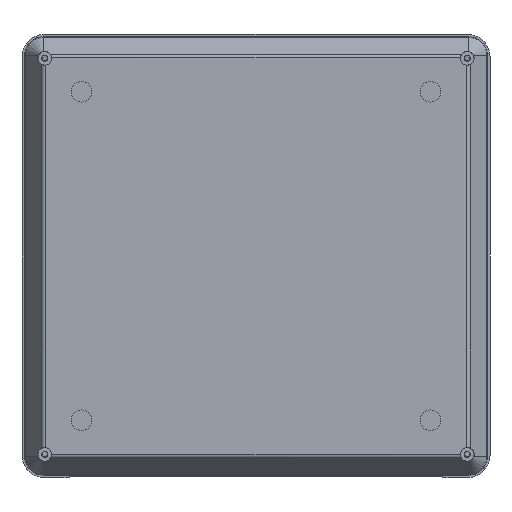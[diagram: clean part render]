
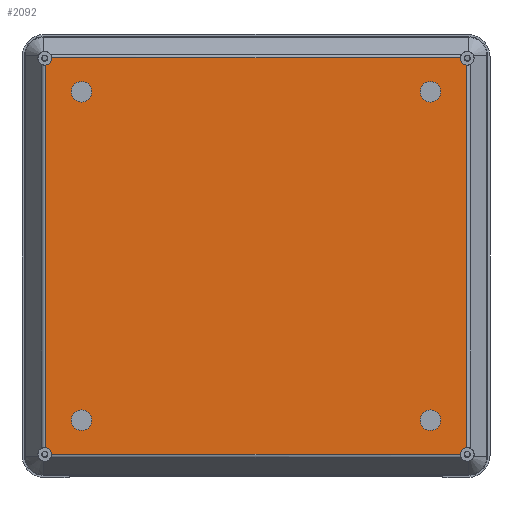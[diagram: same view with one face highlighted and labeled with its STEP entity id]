
A CAD part, front view. The second image highlights one B-rep face of the part: STEP entity #2092.
In plain terms, the highlighted planar face has unit normal (0, -1, 0).
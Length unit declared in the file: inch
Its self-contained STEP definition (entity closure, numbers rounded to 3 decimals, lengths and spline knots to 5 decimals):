
#9 = DIRECTION ( 'NONE',  ( 0., -1., 0. ) ) ;
#101 = AXIS2_PLACEMENT_3D ( 'NONE', #17308, #3883, #18751 ) ;
#575 = CARTESIAN_POINT ( 'NONE',  ( -3.91997, 0., 3.80656 ) ) ;
#606 = CARTESIAN_POINT ( 'NONE',  ( 0., 0., 0. ) ) ;
#708 = ORIENTED_EDGE ( 'NONE', *, *, #1643, .F. ) ;
#780 = ORIENTED_EDGE ( 'NONE', *, *, #11151, .T. ) ;
#892 = VECTOR ( 'NONE', #6836, 39.37008 ) ;
#920 = DIRECTION ( 'NONE',  ( 0., 0., -1. ) ) ;
#949 = EDGE_CURVE ( 'NONE', #10481, #8638, #10701, .T. ) ;
#1016 = VERTEX_POINT ( 'NONE', #15356 ) ;
#1021 = CARTESIAN_POINT ( 'NONE',  ( 3.34646, 0., -2.95276 ) ) ;
#1053 = FACE_BOUND ( 'NONE', #15952, .T. ) ;
#1193 = AXIS2_PLACEMENT_3D ( 'NONE', #11874, #14968, #1291 ) ;
#1270 = CIRCLE ( 'NONE', #101, 0.19685 ) ;
#1291 = DIRECTION ( 'NONE',  ( 0., 0., -1. ) ) ;
#1380 = ORIENTED_EDGE ( 'NONE', *, *, #15602, .F. ) ;
#1621 = VERTEX_POINT ( 'NONE', #10681 ) ;
#1629 = DIRECTION ( 'NONE',  ( 0., -1., 0. ) ) ;
#1643 = EDGE_CURVE ( 'NONE', #1016, #1993, #3441, .T. ) ;
#1748 = DIRECTION ( 'NONE',  ( 0., 0., -1. ) ) ;
#1757 = DIRECTION ( 'NONE',  ( 0., -1., 0. ) ) ;
#1760 = DIRECTION ( 'NONE',  ( 0., 0., -1. ) ) ;
#1838 = CARTESIAN_POINT ( 'NONE',  ( -3.9193, 0., -3.80656 ) ) ;
#1993 = VERTEX_POINT ( 'NONE', #17970 ) ;
#2092 = ADVANCED_FACE ( 'NONE', ( #16356, #12825, #17289, #3862, #1053 ), #3616, .F. ) ;
#2474 = VERTEX_POINT ( 'NONE', #12294 ) ;
#3010 = DIRECTION ( 'NONE',  ( 0., -1., 0. ) ) ;
#3047 = DIRECTION ( 'NONE',  ( 0., 0., -1. ) ) ;
#3139 = CARTESIAN_POINT ( 'NONE',  ( 3.34646, 0., 3.34646 ) ) ;
#3253 = CARTESIAN_POINT ( 'NONE',  ( -4.03039, 0., 3.80656 ) ) ;
#3361 = ORIENTED_EDGE ( 'NONE', *, *, #9006, .F. ) ;
#3441 = CIRCLE ( 'NONE', #14675, 0.19685 ) ;
#3573 = EDGE_CURVE ( 'NONE', #18842, #17796, #7298, .T. ) ;
#3616 = PLANE ( 'NONE',  #10774 ) ;
#3715 = ORIENTED_EDGE ( 'NONE', *, *, #12429, .F. ) ;
#3727 = AXIS2_PLACEMENT_3D ( 'NONE', #10653, #16684, #1748 ) ;
#3806 = EDGE_CURVE ( 'NONE', #11491, #8638, #7983, .T. ) ;
#3862 = FACE_BOUND ( 'NONE', #19274, .T. ) ;
#3883 = DIRECTION ( 'NONE',  ( 0., -1., 0. ) ) ;
#4042 = VERTEX_POINT ( 'NONE', #3139 ) ;
#4073 = ORIENTED_EDGE ( 'NONE', *, *, #13962, .F. ) ;
#4341 = VERTEX_POINT ( 'NONE', #19105 ) ;
#4402 = CARTESIAN_POINT ( 'NONE',  ( 4.04278, 0., 3.66153 ) ) ;
#4557 = CARTESIAN_POINT ( 'NONE',  ( 3.34646, 0., -3.14961 ) ) ;
#5091 = VERTEX_POINT ( 'NONE', #17479 ) ;
#5112 = CARTESIAN_POINT ( 'NONE',  ( -4.04278, 0., 3.66153 ) ) ;
#5520 = CIRCLE ( 'NONE', #17733, 0.13189 ) ;
#5545 = DIRECTION ( 'NONE',  ( 0., -1., 0. ) ) ;
#5579 = CARTESIAN_POINT ( 'NONE',  ( 4.04278, 0., 3.74449 ) ) ;
#5858 = CARTESIAN_POINT ( 'NONE',  ( -3.34646, 0., -3.14961 ) ) ;
#5907 = DIRECTION ( 'NONE',  ( 0., 0., -1. ) ) ;
#6259 = ORIENTED_EDGE ( 'NONE', *, *, #8756, .F. ) ;
#6386 = EDGE_CURVE ( 'NONE', #18842, #8424, #17850, .T. ) ;
#6594 = EDGE_CURVE ( 'NONE', #14394, #1621, #13136, .T. ) ;
#6670 = VECTOR ( 'NONE', #11807, 39.37008 ) ;
#6749 = DIRECTION ( 'NONE',  ( 0., 0., 1. ) ) ;
#6836 = DIRECTION ( 'NONE',  ( 0., 0., 1. ) ) ;
#6903 = CARTESIAN_POINT ( 'NONE',  ( 3.9193, 0., -3.80656 ) ) ;
#7092 = ORIENTED_EDGE ( 'NONE', *, *, #16400, .F. ) ;
#7254 = DIRECTION ( 'NONE',  ( 0., -1., 0. ) ) ;
#7298 = LINE ( 'NONE', #8128, #12985 ) ;
#7536 = CARTESIAN_POINT ( 'NONE',  ( -3.34646, 0., 3.14961 ) ) ;
#7599 = DIRECTION ( 'NONE',  ( 0., 0., -1. ) ) ;
#7650 = EDGE_CURVE ( 'NONE', #19154, #13788, #5520, .T. ) ;
#7773 = AXIS2_PLACEMENT_3D ( 'NONE', #14848, #7254, #14584 ) ;
#7828 = DIRECTION ( 'NONE',  ( 0., 0., -1. ) ) ;
#7893 = AXIS2_PLACEMENT_3D ( 'NONE', #4557, #1629, #1760 ) ;
#7920 = AXIS2_PLACEMENT_3D ( 'NONE', #5858, #3010, #8887 ) ;
#7983 = CIRCLE ( 'NONE', #7773, 0.13189 ) ;
#8128 = CARTESIAN_POINT ( 'NONE',  ( -4.04278, 0., -3.75662 ) ) ;
#8138 = DIRECTION ( 'NONE',  ( 1., 0., 0. ) ) ;
#8318 = EDGE_CURVE ( 'NONE', #19154, #8424, #14705, .T. ) ;
#8424 = VERTEX_POINT ( 'NONE', #575 ) ;
#8428 = CARTESIAN_POINT ( 'NONE',  ( 3.34646, 0., 3.14961 ) ) ;
#8638 = VERTEX_POINT ( 'NONE', #6903 ) ;
#8756 = EDGE_CURVE ( 'NONE', #1993, #1016, #11849, .T. ) ;
#8874 = CARTESIAN_POINT ( 'NONE',  ( 4.01086, 0., -3.80656 ) ) ;
#8887 = DIRECTION ( 'NONE',  ( 0., 0., -1. ) ) ;
#9006 = EDGE_CURVE ( 'NONE', #4042, #2474, #1270, .T. ) ;
#9834 = AXIS2_PLACEMENT_3D ( 'NONE', #12426, #1757, #7828 ) ;
#10481 = VERTEX_POINT ( 'NONE', #1838 ) ;
#10653 = CARTESIAN_POINT ( 'NONE',  ( 3.34646, 0., -3.14961 ) ) ;
#10681 = CARTESIAN_POINT ( 'NONE',  ( 3.34646, 0., -3.34646 ) ) ;
#10701 = LINE ( 'NONE', #8874, #17107 ) ;
#10703 = ORIENTED_EDGE ( 'NONE', *, *, #6594, .F. ) ;
#10774 = AXIS2_PLACEMENT_3D ( 'NONE', #606, #17049, #6749 ) ;
#11151 = EDGE_CURVE ( 'NONE', #11491, #13788, #18304, .T. ) ;
#11491 = VERTEX_POINT ( 'NONE', #13629 ) ;
#11569 = CARTESIAN_POINT ( 'NONE',  ( 3.91997, 0., 3.80656 ) ) ;
#11665 = EDGE_LOOP ( 'NONE', ( #780, #17658, #12015, #13032, #15020, #7092, #17967, #18257 ) ) ;
#11727 = AXIS2_PLACEMENT_3D ( 'NONE', #8428, #18986, #14636 ) ;
#11807 = DIRECTION ( 'NONE',  ( -1., 0., 0. ) ) ;
#11849 = CIRCLE ( 'NONE', #18635, 0.19685 ) ;
#11874 = CARTESIAN_POINT ( 'NONE',  ( -4.05118, 0., 3.79315 ) ) ;
#11935 = AXIS2_PLACEMENT_3D ( 'NONE', #13907, #16715, #7599 ) ;
#12015 = ORIENTED_EDGE ( 'NONE', *, *, #8318, .T. ) ;
#12294 = CARTESIAN_POINT ( 'NONE',  ( 3.34646, 0., 2.95276 ) ) ;
#12426 = CARTESIAN_POINT ( 'NONE',  ( -4.05118, 0., -3.80528 ) ) ;
#12429 = EDGE_CURVE ( 'NONE', #5091, #4341, #17592, .T. ) ;
#12825 = FACE_BOUND ( 'NONE', #16740, .T. ) ;
#12847 = CIRCLE ( 'NONE', #7893, 0.19685 ) ;
#12985 = VECTOR ( 'NONE', #14221, 39.37008 ) ;
#13032 = ORIENTED_EDGE ( 'NONE', *, *, #6386, .F. ) ;
#13136 = CIRCLE ( 'NONE', #3727, 0.19685 ) ;
#13247 = CIRCLE ( 'NONE', #7920, 0.19685 ) ;
#13474 = CARTESIAN_POINT ( 'NONE',  ( -4.04278, 0., -3.67365 ) ) ;
#13629 = CARTESIAN_POINT ( 'NONE',  ( 4.04278, 0., -3.67365 ) ) ;
#13788 = VERTEX_POINT ( 'NONE', #4402 ) ;
#13907 = CARTESIAN_POINT ( 'NONE',  ( -3.34646, 0., -3.14961 ) ) ;
#13962 = EDGE_CURVE ( 'NONE', #1621, #14394, #12847, .T. ) ;
#14221 = DIRECTION ( 'NONE',  ( 0., 0., -1. ) ) ;
#14394 = VERTEX_POINT ( 'NONE', #1021 ) ;
#14584 = DIRECTION ( 'NONE',  ( 0., 0., -1. ) ) ;
#14636 = DIRECTION ( 'NONE',  ( 0., 0., -1. ) ) ;
#14675 = AXIS2_PLACEMENT_3D ( 'NONE', #7536, #9, #3047 ) ;
#14705 = LINE ( 'NONE', #3253, #6670 ) ;
#14848 = CARTESIAN_POINT ( 'NONE',  ( 4.05118, 0., -3.80528 ) ) ;
#14892 = CIRCLE ( 'NONE', #11727, 0.19685 ) ;
#14968 = DIRECTION ( 'NONE',  ( 0., -1., 0. ) ) ;
#15020 = ORIENTED_EDGE ( 'NONE', *, *, #3573, .T. ) ;
#15356 = CARTESIAN_POINT ( 'NONE',  ( -3.34646, 0., 3.34646 ) ) ;
#15602 = EDGE_CURVE ( 'NONE', #2474, #4042, #14892, .T. ) ;
#15717 = EDGE_CURVE ( 'NONE', #4341, #5091, #13247, .T. ) ;
#15952 = EDGE_LOOP ( 'NONE', ( #6259, #708 ) ) ;
#16041 = CIRCLE ( 'NONE', #9834, 0.13189 ) ;
#16334 = ORIENTED_EDGE ( 'NONE', *, *, #15717, .F. ) ;
#16356 = FACE_BOUND ( 'NONE', #18075, .T. ) ;
#16400 = EDGE_CURVE ( 'NONE', #10481, #17796, #16041, .T. ) ;
#16684 = DIRECTION ( 'NONE',  ( 0., -1., 0. ) ) ;
#16715 = DIRECTION ( 'NONE',  ( 0., -1., 0. ) ) ;
#16740 = EDGE_LOOP ( 'NONE', ( #4073, #10703 ) ) ;
#17049 = DIRECTION ( 'NONE',  ( 0., 1., 0. ) ) ;
#17107 = VECTOR ( 'NONE', #8138, 39.37008 ) ;
#17289 = FACE_OUTER_BOUND ( 'NONE', #11665, .T. ) ;
#17308 = CARTESIAN_POINT ( 'NONE',  ( 3.34646, 0., 3.14961 ) ) ;
#17479 = CARTESIAN_POINT ( 'NONE',  ( -3.34646, 0., -2.95276 ) ) ;
#17592 = CIRCLE ( 'NONE', #11935, 0.19685 ) ;
#17658 = ORIENTED_EDGE ( 'NONE', *, *, #7650, .F. ) ;
#17733 = AXIS2_PLACEMENT_3D ( 'NONE', #19079, #5545, #920 ) ;
#17796 = VERTEX_POINT ( 'NONE', #13474 ) ;
#17850 = CIRCLE ( 'NONE', #1193, 0.13189 ) ;
#17918 = DIRECTION ( 'NONE',  ( 0., -1., 0. ) ) ;
#17967 = ORIENTED_EDGE ( 'NONE', *, *, #949, .T. ) ;
#17970 = CARTESIAN_POINT ( 'NONE',  ( -3.34646, 0., 2.95276 ) ) ;
#18075 = EDGE_LOOP ( 'NONE', ( #16334, #3715 ) ) ;
#18257 = ORIENTED_EDGE ( 'NONE', *, *, #3806, .F. ) ;
#18304 = LINE ( 'NONE', #5579, #892 ) ;
#18635 = AXIS2_PLACEMENT_3D ( 'NONE', #19299, #17918, #5907 ) ;
#18751 = DIRECTION ( 'NONE',  ( 0., 0., -1. ) ) ;
#18842 = VERTEX_POINT ( 'NONE', #5112 ) ;
#18986 = DIRECTION ( 'NONE',  ( 0., -1., 0. ) ) ;
#19079 = CARTESIAN_POINT ( 'NONE',  ( 4.05118, 0., 3.79315 ) ) ;
#19105 = CARTESIAN_POINT ( 'NONE',  ( -3.34646, 0., -3.34646 ) ) ;
#19154 = VERTEX_POINT ( 'NONE', #11569 ) ;
#19274 = EDGE_LOOP ( 'NONE', ( #1380, #3361 ) ) ;
#19299 = CARTESIAN_POINT ( 'NONE',  ( -3.34646, 0., 3.14961 ) ) ;
